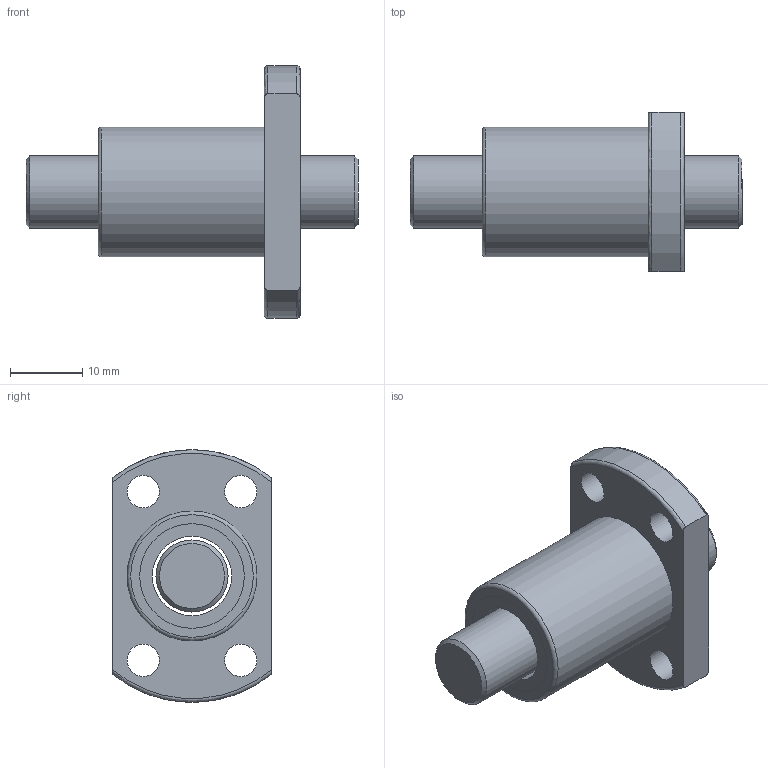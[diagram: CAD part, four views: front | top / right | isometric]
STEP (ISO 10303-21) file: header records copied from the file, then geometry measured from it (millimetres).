
FILE_DESCRIPTION(/* description */ (''),/* implementation_level */ '2;1');
FILE_NAME(/* name */ 'SFK1002',/* time_stamp */ '2007-10-26T10:40:33+08:00',/* author */ (''),/* organization */ (''),/* preprocessor_version */ 'ST-DEVELOPER v9',/* originating_system */ 'EDS PLM SOLUTIONS - UNIGRAPHICS NX 1.0',/* authorisation */ '');
FILE_SCHEMA (('CONFIG_CONTROL_DESIGN'));
Length unit declared in the file: millimetre
Products named in the file (1): FANNDA0400cb
Bounding box: 46 x 22 x 35 mm (x, y, z)
Volume: 10049.7 mm3; surface area: 6734.5 mm2
Topology: 4 solids, 4 shells, 35 faces, 73 edges, 49 vertices
Faces by surface type: cylinder 15, plane 13, torus 5, cone 2
Full cylindrical faces by diameter (mm): 4.5 x4, 10 x1, 11 x3, 14.5 x4, 18 x1
Entity records: 1066 total; most frequent: CARTESIAN_POINT 272, DIRECTION 154, ORIENTED_EDGE 106, AXIS2_PLACEMENT_3D 73, EDGE_LOOP 68, EDGE_CURVE 53, FACE_BOUND 47, VERTEX_POINT 45
